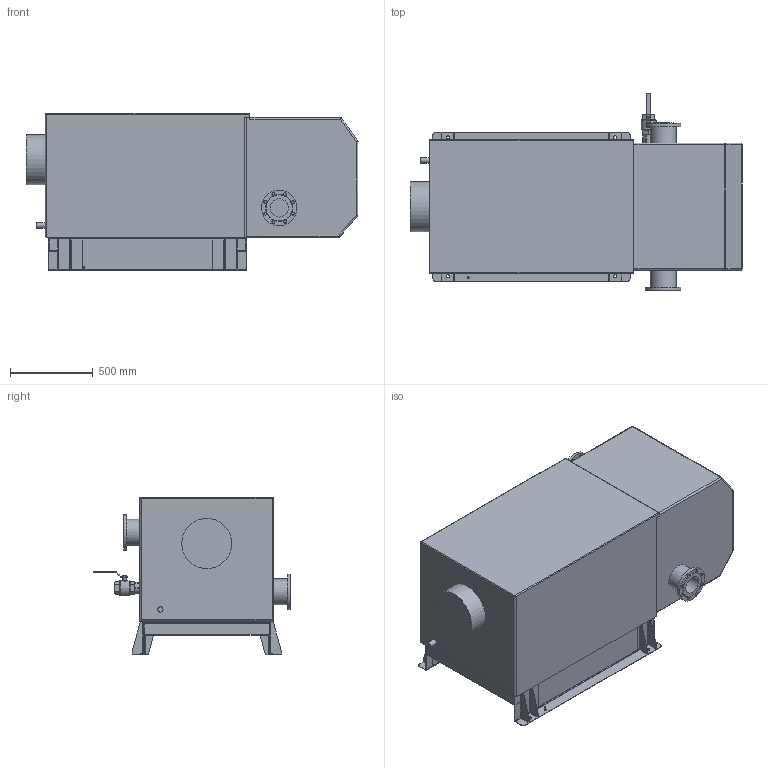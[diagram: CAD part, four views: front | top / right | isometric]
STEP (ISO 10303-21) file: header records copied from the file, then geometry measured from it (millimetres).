
FILE_DESCRIPTION(('STEP AP203'), '1');
FILE_NAME('Ìîäåëü 1 ÌÂò (stp)', '', ('UNSPECIFIED'), ('UNSPECIFIED'), 'C3D Converter', 'C3D Toolkit', '');
FILE_SCHEMA(('CONFIG_CONTROL_DESIGN'));
Length unit declared in the file: millimetre
Bounding box: 2003.73 x 1188.5 x 951 mm (x, y, z)
Volume: 1117844421.9 mm3; surface area: 9816932 mm2
Topology: 4 solids, 4 shells, 901 faces, 2110 edges, 1320 vertices
Faces by surface type: plane 461, cylinder 393, cone 27, sphere 9, bspline 8, torus 3
Full cylindrical faces by diameter (mm): 6 x1, 8.376 x4, 10 x1, 12 x4, 20 x29, 20.4 x4, 25 x1, 30 x110, 32 x1, 50 x1, 56.656 x2, 90 x1, 110 x2, 158 x2, 215 x2
Entity records: 28873 total; most frequent: CARTESIAN_POINT 8786, DIRECTION 4181, ORIENTED_EDGE 3838, EDGE_CURVE 1919, AXIS2_PLACEMENT_3D 1575, VERTEX_POINT 1318, EDGE_LOOP 1261, LINE 1031
